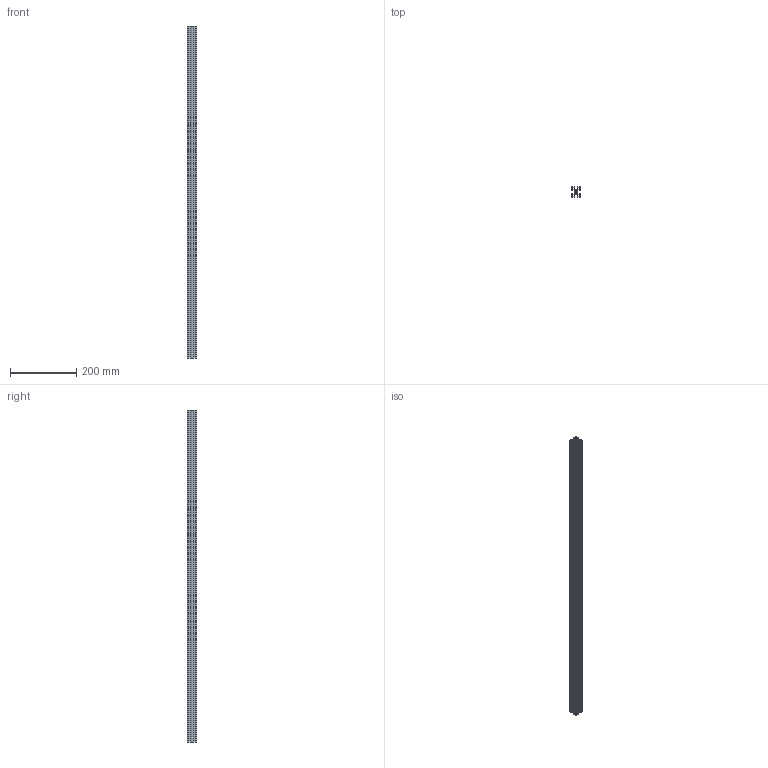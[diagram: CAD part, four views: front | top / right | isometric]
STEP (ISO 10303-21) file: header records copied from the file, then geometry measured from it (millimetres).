
FILE_DESCRIPTION (( 'STEP AP214' ), '1' );
FILE_NAME ('PERFIL 30 x 30 - 0.7 Kg-m.STEP', '2022-08-24T01:27:19', ( 'Marcio' ), ( '' ), 'SwSTEP 2.0', 'SolidWorks 2020', '' );
FILE_SCHEMA (( 'AUTOMOTIVE_DESIGN' ));
Length unit declared in the file: millimetre
Products named in the file (1): PERFIL 30 x 30 - 0.7 Kg-m
Bounding box: 30 x 30 x 1000 mm (x, y, z)
Volume: 265989.2 mm3; surface area: 367632.5 mm2
Topology: 1 solids, 1 shells, 181 faces, 537 edges, 358 vertices
Faces by surface type: plane 124, cylinder 57
Entity records: 6099 total; most frequent: CARTESIAN_POINT 1077, ORIENTED_EDGE 1074, DIRECTION 1015, EDGE_CURVE 537, LINE 423, VECTOR 423, VERTEX_POINT 358, AXIS2_PLACEMENT_3D 296
